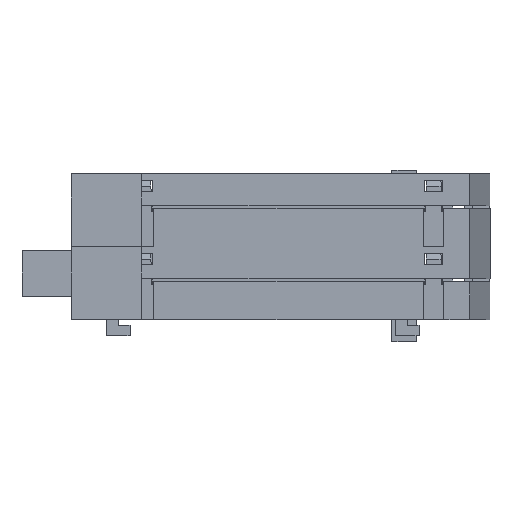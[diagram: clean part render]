
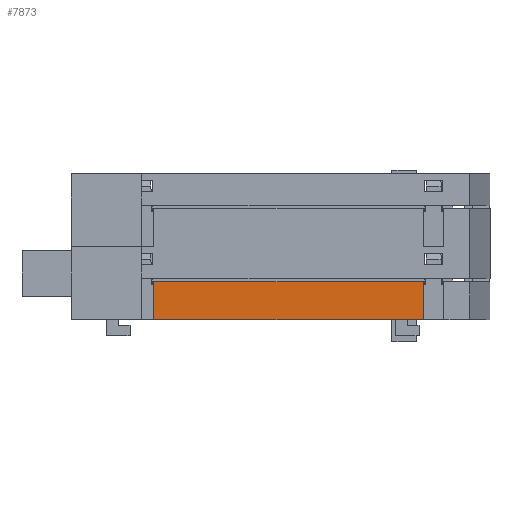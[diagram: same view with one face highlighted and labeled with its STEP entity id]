
A CAD part, left-side view. The second image highlights one B-rep face of the part: STEP entity #7873.
In plain terms, the highlighted planar face has unit normal (-1, 0, 0).
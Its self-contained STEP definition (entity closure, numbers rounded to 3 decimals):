
#242 = VERTEX_POINT ( 'NONE', #6140 ) ;
#825 = VERTEX_POINT ( 'NONE', #24647 ) ;
#1563 = CARTESIAN_POINT ( 'NONE',  ( -1.9, 60.995, 4. ) ) ;
#2266 = CARTESIAN_POINT ( 'NONE',  ( -1.9, 60.995, -3. ) ) ;
#4022 = PLANE ( 'NONE',  #28191 ) ;
#6000 = EDGE_LOOP ( 'NONE', ( #22323, #34283, #7069, #36540 ) ) ;
#6140 = CARTESIAN_POINT ( 'NONE',  ( -1.9, 3.646, -3. ) ) ;
#6448 = DIRECTION ( 'NONE',  ( 0., -1., 0. ) ) ;
#6683 = LINE ( 'NONE', #2266, #13364 ) ;
#7069 = ORIENTED_EDGE ( 'NONE', *, *, #15076, .F. ) ;
#7873 = ADVANCED_FACE ( 'NONE', ( #8186 ), #4022, .F. ) ;
#8186 = FACE_OUTER_BOUND ( 'NONE', #6000, .T. ) ;
#8978 = VECTOR ( 'NONE', #39703, 1000. ) ;
#12568 = EDGE_CURVE ( 'NONE', #825, #25836, #26721, .T. ) ;
#13364 = VECTOR ( 'NONE', #6448, 1000. ) ;
#14445 = DIRECTION ( 'NONE',  ( 0., -1., 0. ) ) ;
#14954 = CARTESIAN_POINT ( 'NONE',  ( -1.9, 60.995, 3.5 ) ) ;
#15076 = EDGE_CURVE ( 'NONE', #25836, #28645, #30398, .T. ) ;
#21181 = DIRECTION ( 'NONE',  ( 1., 0., 0. ) ) ;
#22323 = ORIENTED_EDGE ( 'NONE', *, *, #47044, .T. ) ;
#22583 = CARTESIAN_POINT ( 'NONE',  ( -1.9, 49.854, -3. ) ) ;
#24519 = EDGE_CURVE ( 'NONE', #242, #28645, #39972, .T. ) ;
#24647 = CARTESIAN_POINT ( 'NONE',  ( -1.9, 49.854, -3. ) ) ;
#25836 = VERTEX_POINT ( 'NONE', #30686 ) ;
#26721 = LINE ( 'NONE', #22583, #40752 ) ;
#27563 = DIRECTION ( 'NONE',  ( 0., 1., 0. ) ) ;
#28191 = AXIS2_PLACEMENT_3D ( 'NONE', #1563, #21181, #27563 ) ;
#28645 = VERTEX_POINT ( 'NONE', #46883 ) ;
#29431 = DIRECTION ( 'NONE',  ( 0., 0., 1. ) ) ;
#29672 = VECTOR ( 'NONE', #14445, 1000. ) ;
#30398 = LINE ( 'NONE', #14954, #29672 ) ;
#30686 = CARTESIAN_POINT ( 'NONE',  ( -1.9, 49.854, 3.5 ) ) ;
#34283 = ORIENTED_EDGE ( 'NONE', *, *, #24519, .T. ) ;
#36540 = ORIENTED_EDGE ( 'NONE', *, *, #12568, .F. ) ;
#39703 = DIRECTION ( 'NONE',  ( 0., 0., 1. ) ) ;
#39972 = LINE ( 'NONE', #43148, #8978 ) ;
#40752 = VECTOR ( 'NONE', #29431, 1000. ) ;
#43148 = CARTESIAN_POINT ( 'NONE',  ( -1.9, 3.646, -3. ) ) ;
#46883 = CARTESIAN_POINT ( 'NONE',  ( -1.9, 3.646, 3.5 ) ) ;
#47044 = EDGE_CURVE ( 'NONE', #825, #242, #6683, .T. ) ;
